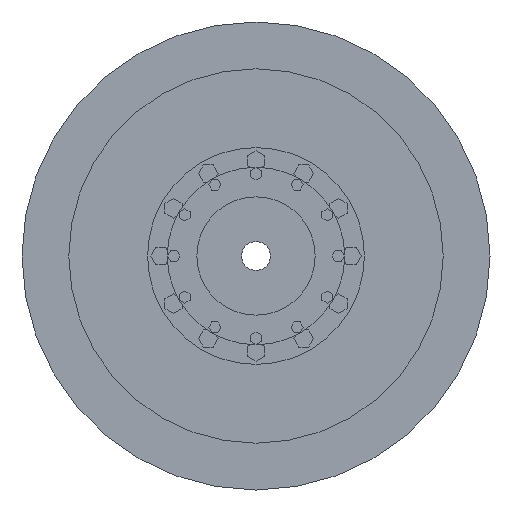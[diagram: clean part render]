
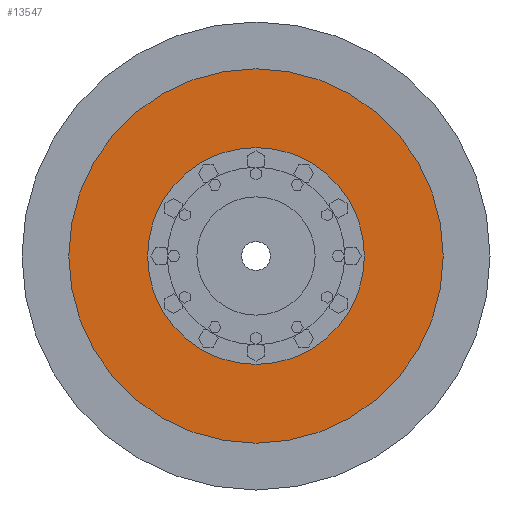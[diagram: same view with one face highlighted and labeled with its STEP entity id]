
A CAD part, left-side view. The second image highlights one B-rep face of the part: STEP entity #13547.
In plain terms, the highlighted planar face has unit normal (-1, 0, 0).
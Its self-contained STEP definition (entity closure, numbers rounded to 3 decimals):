
#13228=CARTESIAN_POINT('',(-5.,0.,0.));
#13229=DIRECTION('',(1.,0.,0.));
#13230=DIRECTION('',(0.,1.,0.));
#13231=AXIS2_PLACEMENT_3D('',#13228,#13229,#13230);
#13241=CARTESIAN_POINT('',(-5.,0.,0.));
#13242=DIRECTION('',(-1.,0.,0.));
#13243=DIRECTION('',(0.,1.,0.));
#13244=AXIS2_PLACEMENT_3D('',#13241,#13242,#13243);
#13330=CARTESIAN_POINT('',(-5.,0.,0.));
#13331=DIRECTION('',(-1.,0.,0.));
#13332=DIRECTION('',(0.,1.,0.));
#13333=AXIS2_PLACEMENT_3D('',#13330,#13331,#13332);
#13335=CARTESIAN_POINT('',(-5.,0.,0.));
#13336=DIRECTION('',(1.,0.,0.));
#13337=DIRECTION('',(0.,1.,0.));
#13338=AXIS2_PLACEMENT_3D('',#13335,#13336,#13337);
#13340=CARTESIAN_POINT('',(-5.,62.5,0.));
#13342=VERTEX_POINT('',#13340);
#13349=CARTESIAN_POINT('',(-5.,142.4,0.));
#13351=VERTEX_POINT('',#13349);
#13352=CARTESIAN_POINT('',(-5.,-62.5,0.));
#13354=VERTEX_POINT('',#13352);
#13361=CARTESIAN_POINT('',(-5.,-142.4,0.));
#13363=VERTEX_POINT('',#13361);
#13534=CARTESIAN_POINT('',(-5.,0.,0.));
#13535=DIRECTION('',(1.,0.,0.));
#13536=DIRECTION('',(0.,-1.,0.));
#13537=AXIS2_PLACEMENT_3D('',#13534,#13535,#13536);
#13538=PLANE('',#13537);
#13539=ORIENTED_EDGE('',*,*,#13527,.F.);
#13540=ORIENTED_EDGE('',*,*,#13516,.T.);
#13541=EDGE_LOOP('',(#13539,#13540));
#13542=FACE_OUTER_BOUND('',#13541,.F.);
#13543=ORIENTED_EDGE('',*,*,#13379,.F.);
#13544=ORIENTED_EDGE('',*,*,#13397,.T.);
#13545=EDGE_LOOP('',(#13543,#13544));
#13546=FACE_BOUND('',#13545,.F.);
#13547=ADVANCED_FACE('',(#13542,#13546),#13538,.F.);
#13232=CIRCLE('',#13231,62.5);
#13245=CIRCLE('',#13244,62.5);
#13334=CIRCLE('',#13333,142.4);
#13339=CIRCLE('',#13338,142.4);
#13379=EDGE_CURVE('',#13342,#13354,#13232,.T.);
#13397=EDGE_CURVE('',#13342,#13354,#13245,.T.);
#13516=EDGE_CURVE('',#13351,#13363,#13339,.T.);
#13527=EDGE_CURVE('',#13351,#13363,#13334,.T.);
